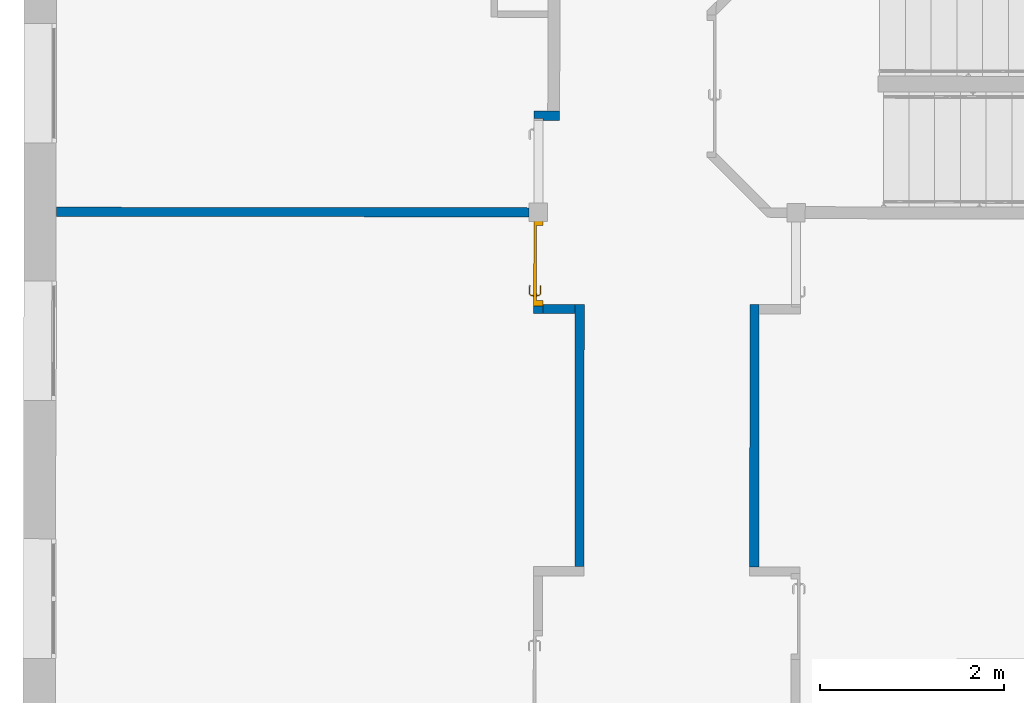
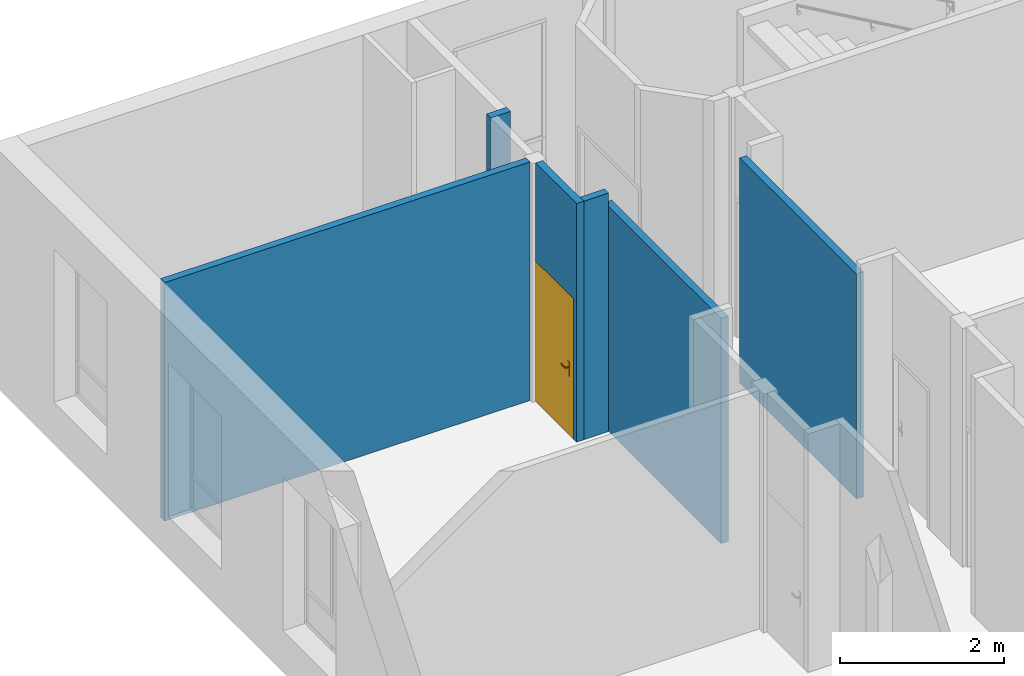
# One storey, part 65 of 101: 6 walls, 1 door, 2 openings.
"""IFC2X3 building model written with IfcOpenShell, lengths in metres."""

import ifcopenshell
import ifcopenshell.guid

model = None  # the IFC model being written
_history = None  # IfcOwnerHistory: only IFC2X3 demands one
_inside = {}  # id of a spatial element -> (the spatial element, [elements in it])
_under = {}  # id of a project, library or spatial element -> (it, [spatial elements below it])
_declared = {}  # id of a project -> (the project, [libraries it declares])
_typed = {}  # id of a type object -> (the type object, [elements of that type])
_made_of = {}  # id of a material, layer set ... -> (it, [elements and type objects made of it])


def new_model(schema):
    """Start an empty IFC model of exactly this schema.

    Asked for "IFC4X3", IfcOpenShell would pick the latest addendum, in which some entities
    have other attributes; the version numbers below select the first issue.
    IFC2X3 requires an IfcOwnerHistory on every rooted entity: one is made here for all.
    """
    global model, _history
    if schema == "IFC4X3":
        model = ifcopenshell.file(schema_version=(4, 3, 0, 0))
    else:
        model = ifcopenshell.file(schema=schema)
    _inside.clear()
    _under.clear()
    _declared.clear()
    _typed.clear()
    _made_of.clear()
    _history = None
    if model.schema == "IFC2X3":
        org = make("IfcOrganization", Name="unknown")
        user = make(
            "IfcPersonAndOrganization",
            ThePerson=make("IfcPerson", FamilyName="unknown"),
            TheOrganization=org,
        )
        app = make(
            "IfcApplication",
            ApplicationDeveloper=org,
            Version="unknown",
            ApplicationFullName="unknown",
            ApplicationIdentifier="unknown",
        )
        _history = make(
            "IfcOwnerHistory",
            OwningUser=user,
            OwningApplication=app,
            ChangeAction="ADDED",
            CreationDate=0,
        )
    return model


def make(cls, **values):
    """One entity of the class cls with the attributes given. An attribute that is None is left unset."""
    return model.create_entity(
        cls, **{name: value for name, value in values.items() if value is not None}
    )


def entity(cls, *values):
    """Any entity or typed value of the class cls, its attributes in the order of the schema. None: left unset."""
    e = model.create_entity(cls)
    for i, value in enumerate(values):
        if value is not None:
            e[i] = value
    return e


def rooted(cls, **values):
    """An entity with a GlobalId (a new one), such as an element, a storey or a relation."""
    return make(cls, GlobalId=ifcopenshell.guid.new(), OwnerHistory=_history, **values)


def si_unit(unit_type, name, prefix=None):
    """IfcSIUnit, for example si_unit("LENGTHUNIT", "METRE", prefix="MILLI")."""
    return make("IfcSIUnit", UnitType=unit_type, Prefix=prefix, Name=name)


def converted_unit(unit_type, name, factor, base, dimensions=None, offset=None):
    """IfcConversionBasedUnit, such as the inch: factor (a typed value) times the base unit."""
    return make(
        "IfcConversionBasedUnit"
        if offset is None
        else "IfcConversionBasedUnitWithOffset",
        ConversionOffset=offset,
        Dimensions=None
        if dimensions is None
        else entity("IfcDimensionalExponents", *dimensions),
        UnitType=unit_type,
        Name=name,
        ConversionFactor=make(
            "IfcMeasureWithUnit", ValueComponent=factor, UnitComponent=base
        ),
    )


def derived_unit(unit_type, elements):
    """IfcDerivedUnit: a product of units, each with its exponent."""
    return make(
        "IfcDerivedUnit",
        Elements=[
            make("IfcDerivedUnitElement", Unit=unit, Exponent=power)
            for unit, power in elements
        ],
        UnitType=unit_type,
    )


def assignment(units):
    """IfcUnitAssignment: the units of a project."""
    return None if units is None else make("IfcUnitAssignment", Units=units)


def point(xyz):
    """IfcCartesianPoint."""
    return None if xyz is None else make("IfcCartesianPoint", Coordinates=xyz)


def direction(xyz):
    """IfcDirection."""
    return None if xyz is None else make("IfcDirection", DirectionRatios=xyz)


def frame(location, z_axis=None, x_axis=None):
    """IfcAxis2Placement3D, a coordinate frame: its origin and axes. An axis left out is left unset."""
    return make(
        "IfcAxis2Placement3D",
        Location=point(location),
        Axis=direction(z_axis),
        RefDirection=direction(x_axis),
    )


def frame_2d(location, x_axis=None):
    """IfcAxis2Placement2D, a coordinate frame in the plane: its origin and x axis."""
    return make(
        "IfcAxis2Placement2D", Location=point(location), RefDirection=direction(x_axis)
    )


def origin():
    """The frame at (0, 0, 0) with its axes left unset."""
    return frame((0.0, 0.0, 0.0))


def place(relative_to, where):
    """IfcLocalPlacement: puts the frame where relative to a parent placement (None: the world)."""
    return make(
        "IfcLocalPlacement", PlacementRelTo=relative_to, RelativePlacement=where
    )


def context(
    kind, dimensions, precision=None, world=None, true_north=None, identifier=None
):
    """IfcGeometricRepresentationContext, for example the 3D "Model" context."""
    return make(
        "IfcGeometricRepresentationContext",
        ContextIdentifier=identifier,
        ContextType=kind,
        CoordinateSpaceDimension=dimensions,
        Precision=precision,
        WorldCoordinateSystem=world,
        TrueNorth=true_north,
    )


def subcontext(parent, identifier, kind, view, scale=None):
    """IfcGeometricRepresentationSubContext, for example "Body" below "Model"."""
    return make(
        "IfcGeometricRepresentationSubContext",
        ContextIdentifier=identifier,
        ContextType=kind,
        ParentContext=parent,
        TargetScale=scale,
        TargetView=view,
    )


def project(units=None, contexts=None):
    """IfcProject with its units and contexts."""
    return rooted(
        "IfcProject",
        Name="project",
        RepresentationContexts=contexts,
        UnitsInContext=assignment(units),
    )


def spatial(cls, under=None, at=None, **own):
    """A site, building, storey or space (cls), placed at a placement, below another one or the project."""
    s = rooted(cls, ObjectPlacement=at, **own)
    if under is not None:
        _under.setdefault(under.id(), (under, []))[1].append(s)
    return s


def polyline(points):
    """IfcPolyline through the points."""
    return make("IfcPolyline", Points=[point(p) for p in points])


def profile(cls, at=None, kind="AREA", **sizes):
    """A parametric profile (cls). Its sizes go by their IFC names, for example OverallWidth=200.0."""
    return make(cls, ProfileType=kind, Position=at, **sizes)


def rectangle(**sizes):
    """IfcRectangleProfileDef."""
    return profile("IfcRectangleProfileDef", **sizes)


def extrude(swept, where, along, depth):
    """IfcExtrudedAreaSolid: the profile swept, set in the frame where, extruded along a direction by depth."""
    return make(
        "IfcExtrudedAreaSolid",
        SweptArea=swept,
        Position=where,
        ExtrudedDirection=direction(along),
        Depth=depth,
    )


def clip(a, b, op="DIFFERENCE"):
    """IfcBooleanClippingResult: the solid a cut by the half space b."""
    return make(
        "IfcBooleanClippingResult", Operator=op, FirstOperand=a, SecondOperand=b
    )


def bounded_halfspace(plane, agree, where, boundary):
    """IfcPolygonalBoundedHalfSpace: a half space limited to a polygon's prism."""
    return make(
        "IfcPolygonalBoundedHalfSpace",
        BaseSurface=make("IfcPlane", Position=plane),
        AgreementFlag=agree,
        Position=where,
        PolygonalBoundary=boundary,
    )


def faces_of(points, faces, orient=None, outer=None):
    """IfcFace entities. A face is a list of loops; a loop is a list of indices into points, from 0.

    orient and outer hold one flag for each loop. By default every Orientation is true, the
    first loop of a face is its IfcFaceOuterBound and the others are IfcFaceBound.
    """
    made = []
    for i, loops in enumerate(faces):
        bounds = []
        for j, loop in enumerate(loops):
            is_outer = j == 0 if outer is None else outer[i][j]
            bounds.append(
                make(
                    "IfcFaceOuterBound" if is_outer else "IfcFaceBound",
                    Bound=make("IfcPolyLoop", Polygon=[points[k] for k in loop]),
                    Orientation=True if orient is None else orient[i][j],
                )
            )
        made.append(make("IfcFace", Bounds=bounds))
    return made


def faceted_brep(points, faces, orient=None, outer=None, voids=None):
    """IfcFacetedBrep: a solid bounded by flat faces; with voids (closed shells), ...WithVoids."""
    shared = [point(p) for p in points]
    hull = make("IfcClosedShell", CfsFaces=faces_of(shared, faces, orient, outer))
    if voids is None:
        return make("IfcFacetedBrep", Outer=hull)
    return make(
        "IfcFacetedBrepWithVoids",
        Outer=hull,
        Voids=[
            make(cls, CfsFaces=faces_of(shared, fs, o, b)) for cls, fs, o, b in voids
        ],
    )


def shape(context_of_items, identifier, shape_type, items):
    """IfcShapeRepresentation: the items that make up one representation, for example the "Body"."""
    return make(
        "IfcShapeRepresentation",
        ContextOfItems=context_of_items,
        RepresentationIdentifier=identifier,
        RepresentationType=shape_type,
        Items=items,
    )


def source(mapping_origin, context_of_items, identifier, shape_type, items):
    """IfcRepresentationMap: a shape defined once, which mapped items show again and again."""
    return make(
        "IfcRepresentationMap",
        MappingOrigin=mapping_origin,
        MappedRepresentation=shape(context_of_items, identifier, shape_type, items),
    )


def transform(
    local_origin,
    x_axis=None,
    y_axis=None,
    z_axis=None,
    scale=None,
    scale2=None,
    scale3=None,
    uniform=True,
):
    """IfcCartesianTransformationOperator3D, or its non-uniform kind. x_axis, y_axis, z_axis: its Axis1, 2, 3."""
    if uniform:
        return make(
            "IfcCartesianTransformationOperator3D",
            Axis1=direction(x_axis),
            Axis2=direction(y_axis),
            LocalOrigin=point(local_origin),
            Scale=scale,
            Axis3=direction(z_axis),
        )
    return make(
        "IfcCartesianTransformationOperator3DnonUniform",
        Axis1=direction(x_axis),
        Axis2=direction(y_axis),
        LocalOrigin=point(local_origin),
        Scale=scale,
        Axis3=direction(z_axis),
        Scale2=scale2,
        Scale3=scale3,
    )


def mapped(mapping_source, mapping_target):
    """IfcMappedItem: shows the shape of a source again, moved by a transform."""
    return make(
        "IfcMappedItem", MappingSource=mapping_source, MappingTarget=mapping_target
    )


def material(Name=None, Category=None):
    """IfcMaterial."""
    return make("IfcMaterial", Name=Name, Category=Category)


def material_list(materials):
    """IfcMaterialList."""
    return make("IfcMaterialList", Materials=materials)


def layer(
    of_material, thickness, ventilated=None, Name=None, Category=None, Priority=None
):
    """IfcMaterialLayer: one layer of a wall or slab, of a material (None: an air gap)."""
    return make(
        "IfcMaterialLayer",
        Material=of_material,
        LayerThickness=thickness,
        IsVentilated=ventilated,
        Name=Name,
        Category=Category,
        Priority=Priority,
    )


def layer_set(layers, Name=None):
    """IfcMaterialLayerSet."""
    return make("IfcMaterialLayerSet", MaterialLayers=layers, LayerSetName=Name)


def layer_usage(for_layer_set, set_direction, sense, offset, extent=None):
    """IfcMaterialLayerSetUsage: how a layer set lies in its element."""
    return make(
        "IfcMaterialLayerSetUsage",
        ForLayerSet=for_layer_set,
        LayerSetDirection=set_direction,
        DirectionSense=sense,
        OffsetFromReferenceLine=offset,
        ReferenceExtent=extent,
    )


def made_of(thing, what):
    """Note that an element or type object is made of a material, layer set ...; save() writes the relation."""
    if what is not None:
        _made_of.setdefault(what.id(), (what, []))[1].append(thing)
    return thing


def type_object(cls, material=None, **own):
    """A type object (cls), such as IfcWallType, which elements share."""
    return made_of(rooted(cls, **own), material)


def type_shapes(of_type, sources):
    """Give a type object the sources (RepresentationMaps) that its elements show as mapped items."""
    of_type.RepresentationMaps = sources


def element(
    cls,
    number,
    at=None,
    inside=None,
    cuts=None,
    type_object=None,
    material=None,
    context=None,
    identifier="Body",
    shape_type=None,
    held_by="IfcProductDefinitionShape",
    body=None,
    shapes=None,
    **own,
):
    """One element of the class cls, such as IfcWall. Its Tag is "e" and its number.

    at: its placement. inside: the storey or other place that contains it. cuts: it is an
    opening in that element (IfcRelVoidsElement). A single representation is given by context,
    identifier, shape_type and body (its items); several are given by shapes. held_by: the class
    of the entity that holds the representations. save() writes the other relations.
    """
    e = rooted(cls, Tag="e%d" % number, ObjectPlacement=at, **own)
    if body is not None:
        shapes = [shape(context, identifier, shape_type, body)]
    if shapes is not None:
        e.Representation = make(held_by, Representations=shapes)
    if inside is not None:
        _inside.setdefault(inside.id(), (inside, []))[1].append(e)
    if cuts is not None:
        rooted(
            "IfcRelVoidsElement", RelatingBuildingElement=cuts, RelatedOpeningElement=e
        )
    if type_object is not None:
        _typed.setdefault(type_object.id(), (type_object, []))[1].append(e)
    return made_of(e, material)


def fill(opening, filler):
    """IfcRelFillsElement: the door or window that sits in an opening."""
    return rooted(
        "IfcRelFillsElement",
        RelatingOpeningElement=opening,
        RelatedBuildingElement=filler,
    )


def aggregate(whole, parts):
    """IfcRelAggregates: a whole, such as a stair, and the parts it consists of."""
    return rooted("IfcRelAggregates", RelatingObject=whole, RelatedObjects=parts)


def save(model, path):
    """Write the relations noted so far, then the file.

    IfcRelAggregates (storeys below a building ...), IfcRelContainedInSpatialStructure (elements
    in a storey), IfcRelDefinesByType, IfcRelAssociatesMaterial and IfcRelDeclares: one each for
    every whole, place, type object, material and project.
    """
    for whole, parts in _under.values():
        aggregate(whole, parts)
    for where, things in _inside.values():
        rooted(
            "IfcRelContainedInSpatialStructure",
            RelatedElements=things,
            RelatingStructure=where,
        )
    for kind, things in _typed.values():
        rooted("IfcRelDefinesByType", RelatedObjects=things, RelatingType=kind)
    for what, things in _made_of.values():
        rooted("IfcRelAssociatesMaterial", RelatedObjects=things, RelatingMaterial=what)
    for by, libraries in _declared.values():
        rooted("IfcRelDeclares", RelatingContext=by, RelatedDefinitions=libraries)
    model.write(path)


model = new_model("IFC2X3")

# Units and contexts
model_context = context("Model", 3, precision=1e-05, world=origin(), true_north=direction((6.123233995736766e-17, 1.0)))
body_context = subcontext(model_context, "Body", "Model", "MODEL_VIEW")
ifc_project = project(units=[si_unit("LENGTHUNIT", "METRE"), si_unit("AREAUNIT", "SQUARE_METRE"), converted_unit("PLANEANGLEUNIT", "DEGREE", entity("IfcPlaneAngleMeasure", 0.017453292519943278), si_unit("PLANEANGLEUNIT", "RADIAN"), dimensions=[0, 0, 0, 0, 0, 0, 0]), derived_unit("THERMALTRANSMITTANCEUNIT", [(si_unit("MASSUNIT", "GRAM", prefix="KILO"), 1), (si_unit("THERMODYNAMICTEMPERATUREUNIT", "KELVIN"), -1), (si_unit("TIMEUNIT", "SECOND"), -3)])], contexts=[model_context])

# Site, building, storey
site_placement = place(None, frame((1253.6752467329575, 2072.143113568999, 91.49999999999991), z_axis=(0.0, 0.0, 1.0), x_axis=(0.7237211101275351, 0.6900925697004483, 0.0)))
site = spatial("IfcSite", under=ifc_project, at=site_placement, Name="Surface", CompositionType="ELEMENT")
building_placement = place(site_placement, origin())
building = spatial("IfcBuilding", under=site, at=building_placement, CompositionType="ELEMENT")
storey_placement = place(building_placement, origin())
storey = spatial("IfcBuildingStorey", under=building, at=storey_placement, Name="0- Rdc", CompositionType="ELEMENT", Elevation=-5.764692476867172e-13)

# Walls
ifc_material_1 = material(Name="OMD_Béton blanc")
ifc_layer = layer(ifc_material_1, 0.1)
ifc_layer_set = layer_set([ifc_layer], Name="Mur de base:MUR 10")
ifc_layer_usage_1 = layer_usage(ifc_layer_set, "AXIS2", "NEGATIVE", 0.05)
wall_type = type_object("IfcWallType", Name="Mur de base:MUR 10", PredefinedType="STANDARD", material=ifc_layer_set)
wall_1_placement = place(storey_placement, frame((167.38926105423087, 20.254106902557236, 0.0), z_axis=(0.0, 0.0, 1.0), x_axis=(-0.6909838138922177, -0.7228702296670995, 0.0)))
element("IfcWallStandardCase", 1, at=wall_1_placement, inside=storey, type_object=wall_type, material=ifc_layer_usage_1, Name="Mur de base:MUR 10", ObjectType="Mur de base:MUR 10", context=body_context, shape_type="Clipping", body=[
    clip(extrude(rectangle(XDim=2.8500000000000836, YDim=0.10000000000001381, at=frame_2d((1.4250000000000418, -3.316791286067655e-15), x_axis=(-1.0, 0.0))), origin(), (0.0, 0.0, 1.0), 3.3499999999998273), bounded_halfspace(frame((0.0, -0.04999999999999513, 3.3499999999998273), z_axis=(0.0, 0.0, -1.0), x_axis=(1.0, 0.0, 0.0)), True, frame((0.0, -0.04999999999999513, 3.3499999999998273)), polyline([(0.0, 0.0), (2.850000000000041, 0.0), (2.8500000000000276, 0.10000000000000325), (0.0, 0.10000000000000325), (0.0, 0.0)]))),
])
ifc_layer_usage_2 = layer_usage(ifc_layer_set, "AXIS2", "NEGATIVE", 0.05)
wall_2_placement = place(storey_placement, frame((166.79341062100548, 16.881057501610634, 0.0), z_axis=(0.0, 0.0, 1.0), x_axis=(0.6909838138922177, 0.7228702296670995, 0.0)))
element("IfcWallStandardCase", 2, at=wall_2_placement, inside=storey, type_object=wall_type, material=ifc_layer_usage_2, Name="Mur de base:MUR 10", ObjectType="Mur de base:MUR 10", context=body_context, shape_type="Clipping", body=[
    clip(extrude(rectangle(XDim=2.850000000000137, YDim=0.10000000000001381, at=frame_2d((1.4250000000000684, -1.6930901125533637e-15), x_axis=(-1.0, 0.0))), origin(), (0.0, 0.0, 1.0), 3.3499999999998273), bounded_halfspace(frame((0.0, -0.049999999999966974, 3.3499999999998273), z_axis=(0.0, 0.0, -1.0), x_axis=(-1.0, 0.0, 0.0)), True, frame((0.0, -0.049999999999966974, 3.3499999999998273)), polyline([(0.0, 0.0), (2.8500000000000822, 0.0), (2.8500000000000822, 0.09999999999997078), (0.0, 0.09999999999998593), (0.0, 0.0)]))),
])
ifc_layer_usage_3 = layer_usage(ifc_layer_set, "AXIS2", "NEGATIVE", 0.05)
wall_3_placement = place(storey_placement, frame((167.31856835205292, 20.25251258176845, 0.0), z_axis=(0.0, 0.0, 1.0), x_axis=(-0.7228702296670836, 0.6909838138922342, 0.0)))
element("IfcWallStandardCase", 3, at=wall_3_placement, inside=storey, type_object=wall_type, material=ifc_layer_usage_3, Name="Mur de base:MUR 10", ObjectType="Mur de base:MUR 10", context=body_context, shape_type="SweptSolid", body=[
    extrude(rectangle(XDim=0.3500000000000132, YDim=0.10000000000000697, at=frame_2d((0.1750000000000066, -4.0592529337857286e-16), x_axis=(-1.0, 0.0))), origin(), (0.0, 0.0, 1.0), 3.5499999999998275),
])

# Wall, opening, door
ifc_layer_usage_4 = layer_usage(ifc_layer_set, "AXIS2", "NEGATIVE", 0.05)
wall_4_placement = place(storey_placement, frame((166.9948710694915, 20.49276259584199, 0.0), z_axis=(0.0, 0.0, 1.0), x_axis=(0.6909838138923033, 0.7228702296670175, 0.0)))
wall_4 = element("IfcWallStandardCase", 4, at=wall_4_placement, inside=storey, type_object=wall_type, material=ifc_layer_usage_4, Name="Mur de base:MUR 10", ObjectType="Mur de base:MUR 10", context=body_context, shape_type="SweptSolid", body=[
    extrude(rectangle(XDim=0.9999999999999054, YDim=0.10000000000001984, at=frame_2d((0.4999999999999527, 2.2239154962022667e-15), x_axis=(-1.0, 0.0))), origin(), (0.0, 0.0, 1.0), 3.5499999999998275),
])
opening_1_placement = place(wall_4_placement, frame((0.08249999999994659, -0.049999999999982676, 0.0)))
opening_1 = element("IfcOpeningElement", 5, at=opening_1_placement, cuts=wall_4, Name="OMD_Porte 1V tunnel:80x204:1", ObjectType="Opening", context=body_context, shape_type="SweptSolid", body=[
    extrude(rectangle(XDim=2.0850000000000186, YDim=0.9349999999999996, at=frame_2d((1.0425000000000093, 0.46750000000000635), x_axis=(1.0, 0.0))), frame((0.0, 0.0, 0.0), z_axis=(0.0, 1.0, 0.0), x_axis=(0.0, 0.0, 1.0)), (0.0, 0.0, 1.0), 0.1),
])
ifc_material_2 = material(Name="Porte - Poignée")
ifc_material_3 = material(Name="OMD_Peinture mur")
ifc_material_4 = material(Name="OMD_Bois")
ifc_material_list = material_list([ifc_material_2, ifc_material_3, ifc_material_4])
door_style = type_object("IfcDoorStyle", Name="OMD_Porte 1V tunnel:80x204", ConstructionType="NOTDEFINED", OperationType="NOTDEFINED", ParameterTakesPrecedence=False, Sizeable=False, material=ifc_material_list)
shared_shape = source(origin(), body_context, "Body", "Brep", [
    faceted_brep([(0.8220252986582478, 0.03500000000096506, 1.0077804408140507), (0.8179747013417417, 0.03500000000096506, 1.007780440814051), (0.8139999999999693, 0.03500000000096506, 1.00699999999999), (0.8139999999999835, 0.03500000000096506, 0.9930000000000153), (0.8179747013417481, 0.03500000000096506, 0.9922195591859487), (0.8220252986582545, 0.03500000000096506, 0.9922195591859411), (0.8260000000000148, 0.03500000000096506, 0.9929999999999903), (0.826000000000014, 0.03500000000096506, 1.006999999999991), (0.8139999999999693, 0.05748520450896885, 1.00699999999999), (0.8139999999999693, 0.05748520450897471, 0.9930000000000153), (0.8179747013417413, 0.059131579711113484, 1.007780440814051), (0.8220252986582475, 0.060809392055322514, 1.0077804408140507), (0.8058389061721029, 0.07699578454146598, 1.0077804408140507), (0.8041610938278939, 0.07294518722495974, 1.007780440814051), (0.7207931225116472, 0.07294518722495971, 1.0077804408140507), (0.7191153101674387, 0.07699578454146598, 1.0077804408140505), (0.7114510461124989, 0.06933152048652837, 1.0077804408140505), (0.714315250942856, 0.0664673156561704, 1.0077804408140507), (0.8260000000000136, 0.062455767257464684, 1.006999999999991), (0.8260000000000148, 0.062455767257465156, 0.9929999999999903), (0.8220252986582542, 0.06080939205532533, 0.9922195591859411), (0.8179747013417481, 0.05913157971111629, 0.9922195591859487), (0.8041610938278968, 0.07294518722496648, 0.9922195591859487), (0.8058389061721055, 0.07699578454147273, 0.9922195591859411), (0.7191153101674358, 0.07699578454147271, 0.9922195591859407), (0.7207931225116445, 0.07294518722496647, 0.9922195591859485), (0.7143152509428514, 0.06646731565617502, 0.9922195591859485), (0.7114510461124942, 0.06933152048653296, 0.9922195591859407), (0.8025147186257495, 0.06897048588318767, 1.00699999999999), (0.8025147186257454, 0.06897048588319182, 0.9930000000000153), (0.8074852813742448, 0.08097048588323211, 1.006999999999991), (0.8074852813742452, 0.08097048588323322, 0.9929999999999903), (0.7624771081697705, 0.06897048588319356, 1.0069999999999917), (0.7224394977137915, 0.06897048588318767, 1.0069999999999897), (0.7224394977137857, 0.0689704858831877, 0.9930000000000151), (0.7624771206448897, 0.06897048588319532, 0.9930000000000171), (0.7624771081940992, 0.07512492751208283, 1.0078781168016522), (0.7573994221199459, 0.08097048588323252, 1.0069999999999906), (0.7174689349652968, 0.08097048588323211, 1.0069999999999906), (0.7675547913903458, 0.08097048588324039, 0.9929999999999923), (0.7174689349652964, 0.08097048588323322, 0.99299999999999), (0.762477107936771, 0.07512492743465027, 0.9921218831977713), (0.7086405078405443, 0.07214205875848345, 1.0069999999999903), (0.7086405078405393, 0.07214205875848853, 0.9929999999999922), (0.7171257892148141, 0.06365677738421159, 0.9930000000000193), (0.71712578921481, 0.06365677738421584, 1.0069999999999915)], [[[0, 1, 2, 3, 4, 5, 6, 7]], [[8, 9, 3, 2]], [[1, 10, 8, 2]], [[1, 0, 11, 12, 13, 10]], [[14, 15, 16, 17]], [[7, 18, 11, 0]], [[18, 7, 6, 19]], [[6, 5, 20, 19]], [[5, 4, 21, 22, 23, 20]], [[24, 25, 26, 27]], [[4, 3, 9, 21]], [[28, 29, 9, 8]], [[8, 10, 13, 28]], [[18, 30, 12, 11]], [[31, 30, 18, 19]], [[19, 20, 23, 31]], [[21, 9, 29, 22]], [[29, 28, 32, 33, 34, 35]], [[36, 32, 13]], [[37, 38, 15]], [[37, 12, 30]], [[36, 12, 37]], [[14, 32, 36]], [[36, 15, 14]], [[28, 13, 32]], [[32, 14, 33]], [[12, 36, 13]], [[15, 36, 37]], [[30, 31, 39, 40, 38, 37]], [[23, 41, 39]], [[24, 39, 41]], [[39, 31, 23]], [[39, 24, 40]], [[22, 35, 41]], [[41, 23, 22]], [[41, 35, 25]], [[35, 22, 29]], [[34, 25, 35]], [[24, 41, 25]], [[17, 16, 42, 43, 27, 26, 44, 45]], [[45, 44, 34, 33]], [[33, 14, 17, 45]], [[15, 38, 42, 16]], [[43, 42, 38, 40]], [[24, 27, 43, 40]], [[34, 44, 26, 25]]]),
    faceted_brep([(0.817974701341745, -0.004999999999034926, 1.007780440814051), (0.8220252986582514, -0.004999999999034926, 1.0077804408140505), (0.8260000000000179, -0.004999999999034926, 1.0069999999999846), (0.8260000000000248, -0.004999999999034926, 0.9929999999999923), (0.8220252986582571, -0.004999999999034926, 0.992219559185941), (0.817974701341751, -0.004999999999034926, 0.9922195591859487), (0.8139999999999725, -0.004999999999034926, 0.9930000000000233), (0.8139999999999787, -0.004999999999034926, 1.006999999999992), (0.8220252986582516, -0.03100457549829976, 1.0077804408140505), (0.8260000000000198, -0.03265095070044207, 1.0069999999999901), (0.8179747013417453, -0.02932676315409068, 1.007780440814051), (0.8042986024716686, -0.04300286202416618, 1.007780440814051), (0.8059764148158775, -0.04705345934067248, 1.0077804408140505), (0.7191424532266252, -0.04705345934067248, 1.0077804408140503), (0.7208202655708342, -0.04300286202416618, 1.0077804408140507), (0.714342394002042, -0.03652499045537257, 1.0077804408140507), (0.7114781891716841, -0.039389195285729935, 1.0077804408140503), (0.813999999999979, -0.02768038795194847, 1.006999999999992), (0.8139999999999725, -0.02768038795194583, 0.9930000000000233), (0.817974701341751, -0.029326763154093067, 0.9922195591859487), (0.8220252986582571, -0.031004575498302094, 0.992219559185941), (0.8059764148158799, -0.0470534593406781, 0.992219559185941), (0.804298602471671, -0.04300286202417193, 0.9922195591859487), (0.7208202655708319, -0.04300286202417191, 0.9922195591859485), (0.7191424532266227, -0.047053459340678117, 0.9922195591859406), (0.71147818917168, -0.03938919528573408, 0.9922195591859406), (0.7143423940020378, -0.036524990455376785, 0.9922195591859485), (0.8260000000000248, -0.032650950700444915, 0.9929999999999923), (0.807622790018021, -0.051028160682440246, 1.0069999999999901), (0.8026522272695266, -0.03902816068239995, 1.006999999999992), (0.8026522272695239, -0.03902816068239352, 0.9930000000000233), (0.8076227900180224, -0.05102816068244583, 0.9929999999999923), (0.762559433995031, -0.0451828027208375, 1.0078781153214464), (0.7676923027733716, -0.05102816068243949, 1.0069999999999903), (0.7174960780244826, -0.05102816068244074, 1.00699999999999), (0.7625594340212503, -0.03902816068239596, 1.0069999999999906), (0.7224666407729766, -0.039028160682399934, 1.0069999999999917), (0.7625594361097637, -0.03902816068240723, 0.9930000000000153), (0.7224666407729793, -0.03902816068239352, 0.9930000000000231), (0.7625594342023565, -0.04518280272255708, 0.9921218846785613), (0.7574265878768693, -0.051028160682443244, 0.9929999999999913), (0.7174960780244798, -0.05102816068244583, 0.9929999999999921), (0.7171529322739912, -0.033714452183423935, 0.9930000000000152), (0.7086676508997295, -0.04219973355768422, 0.9929999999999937), (0.7086676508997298, -0.04219973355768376, 1.0069999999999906), (0.717152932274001, -0.03371445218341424, 1.0069999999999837)], [[[0, 1, 2, 3, 4, 5, 6, 7]], [[2, 1, 8, 9]], [[1, 0, 10, 11, 12, 8]], [[13, 14, 15, 16]], [[0, 7, 17, 10]], [[18, 17, 7, 6]], [[5, 19, 18, 6]], [[5, 4, 20, 21, 22, 19]], [[23, 24, 25, 26]], [[3, 27, 20, 4]], [[9, 27, 3, 2]], [[9, 8, 12, 28]], [[10, 17, 29, 11]], [[30, 29, 17, 18]], [[18, 19, 22, 30]], [[20, 27, 31, 21]], [[28, 31, 27, 9]], [[12, 32, 33]], [[13, 33, 32]], [[33, 28, 12]], [[33, 13, 34]], [[11, 35, 32]], [[32, 12, 11]], [[32, 35, 14]], [[35, 11, 29]], [[36, 14, 35]], [[13, 32, 14]], [[29, 30, 37, 38, 36, 35]], [[39, 37, 22]], [[40, 41, 24]], [[40, 21, 31]], [[39, 21, 40]], [[23, 37, 39]], [[39, 24, 23]], [[30, 22, 37]], [[37, 23, 38]], [[21, 39, 22]], [[24, 39, 40]], [[31, 28, 33, 34, 41, 40]], [[42, 26, 25, 43, 44, 16, 15, 45]], [[13, 16, 44, 34]], [[36, 45, 15, 14]], [[42, 45, 36, 38]], [[38, 23, 26, 42]], [[24, 41, 43, 25]], [[44, 43, 41, 34]]]),
    faceted_brep([(0.8199999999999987, 0.030000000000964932, 0.8646410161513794), (0.8303527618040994, 0.03000000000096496, 0.866003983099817), (0.8399999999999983, 0.030000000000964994, 0.8700000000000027), (0.8399999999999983, 0.030000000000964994, 1.0800000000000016), (0.8303527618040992, 0.03000000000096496, 1.0839960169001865), (0.8199999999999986, 0.030000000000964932, 1.0853589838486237), (0.809647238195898, 0.030000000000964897, 1.0839960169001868), (0.7999999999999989, 0.030000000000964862, 1.0800000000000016), (0.7999999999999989, 0.030000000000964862, 0.8700000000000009), (0.8096472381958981, 0.030000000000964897, 0.8660039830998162), (0.8199999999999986, 0.03500000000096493, 1.0853589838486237), (0.8303527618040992, 0.03500000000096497, 1.0839960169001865), (0.8399999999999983, 0.035000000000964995, 1.0800000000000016), (0.8399999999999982, 0.035000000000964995, 0.8700000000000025), (0.8303527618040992, 0.03500000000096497, 0.866003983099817), (0.8199999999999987, 0.03500000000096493, 0.8646410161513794), (0.8096472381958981, 0.0350000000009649, 0.8660039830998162), (0.7999999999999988, 0.03500000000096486, 0.8700000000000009), (0.7999999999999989, 0.03500000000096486, 1.0800000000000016), (0.809647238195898, 0.0350000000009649, 1.0839960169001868)], [[[0, 1, 2, 3, 4, 5, 6, 7, 8, 9]], [[10, 11, 12, 13, 14, 15, 16, 17, 18, 19]], [[6, 19, 18, 7]], [[5, 10, 19, 6]], [[4, 11, 10, 5]], [[4, 3, 12, 11]], [[12, 3, 2, 13]], [[1, 14, 13, 2]], [[0, 15, 14, 1]], [[9, 16, 15, 0]], [[9, 8, 17, 16]], [[17, 8, 7, 18]]]),
    faceted_brep([(0.819999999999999, -0.004999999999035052, 0.8646410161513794), (0.8303527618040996, -0.0049999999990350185, 0.8660039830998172), (0.8399999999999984, -0.004999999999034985, 0.8700000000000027), (0.8399999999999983, -0.004999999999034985, 1.0800000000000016), (0.8303527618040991, -0.0049999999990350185, 1.0839960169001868), (0.8199999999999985, -0.004999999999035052, 1.0853589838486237), (0.8096472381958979, -0.004999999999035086, 1.0839960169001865), (0.7999999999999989, -0.004999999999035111, 1.0800000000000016), (0.7999999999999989, -0.004999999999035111, 0.8700000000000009), (0.8096472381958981, -0.004999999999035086, 0.8660039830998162), (0.8399999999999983, 0.0, 1.0800000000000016), (0.8399999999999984, 0.0, 0.8700000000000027), (0.8303527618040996, 0.0, 0.8660039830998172), (0.819999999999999, 0.0, 0.8646410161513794), (0.8096472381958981, 0.0, 0.8660039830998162), (0.7999999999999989, 0.0, 0.8700000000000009), (0.7999999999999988, 0.0, 1.0800000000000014), (0.8096472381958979, 0.0, 1.0839960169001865), (0.8199999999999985, 0.0, 1.0853589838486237), (0.8303527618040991, 0.0, 1.0839960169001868)], [[[0, 1, 2, 3, 4, 5, 6, 7, 8, 9]], [[10, 11, 12, 13, 14, 15, 16, 17, 18, 19]], [[1, 12, 11, 2]], [[0, 13, 12, 1]], [[9, 14, 13, 0]], [[9, 8, 15, 14]], [[15, 8, 7, 16]], [[6, 17, 16, 7]], [[5, 18, 17, 6]], [[4, 19, 18, 5]], [[4, 3, 10, 19]], [[10, 3, 2, 11]]]),
    faceted_brep([(0.89, 0.030000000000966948, 0.0), (0.89, 0.0, 0.0), (0.04500000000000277, 0.0, 0.0), (0.04500000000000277, 0.030000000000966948, 0.0), (0.89, 0.030000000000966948, 2.04), (0.89, 0.0, 2.04), (0.04500000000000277, 0.0, 2.04), (0.04500000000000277, 0.030000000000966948, 2.04)], [[[0, 1, 2, 3]], [[4, 5, 1, 0]], [[5, 6, 2, 1]], [[6, 7, 3, 2]], [[7, 4, 0, 3]], [[4, 7, 6, 5]]]),
    faceted_brep([(0.9350000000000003, 0.0, 0.0), (0.89, 0.0, 0.0), (0.8900000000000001, 0.03000000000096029, 0.0), (0.8750000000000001, 0.030000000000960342, 0.0), (0.8750000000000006, 0.10000000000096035, 0.0), (0.9350000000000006, 0.10000000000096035, 0.0), (0.9350000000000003, 0.0, 2.085), (0.0, 0.0, 2.085), (0.0, 0.0, 0.0), (0.04500000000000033, 0.0, 0.0), (0.04500000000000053, 0.0, 2.04), (0.8899999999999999, 0.0, 2.0399999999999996), (0.89, 0.030000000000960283, 2.0399999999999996), (0.0450000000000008, 0.03000000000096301, 2.0399999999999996), (0.0450000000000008, 0.030000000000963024, 0.0), (0.060000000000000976, 0.030000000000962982, 0.0), (0.060000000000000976, 0.03000000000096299, 2.0249999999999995), (0.8750000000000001, 0.03000000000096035, 2.025), (0.8750000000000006, 0.10000000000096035, 2.0250000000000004), (0.060000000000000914, 0.10000000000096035, 2.025), (0.060000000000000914, 0.10000000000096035, 0.0), (0.0, 0.10000000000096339, 0.0), (0.0, 0.10000000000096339, 2.085), (0.9350000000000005, 0.10000000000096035, 2.085)], [[[0, 1, 2, 3, 4, 5]], [[1, 0, 6, 7, 8, 9, 10, 11]], [[2, 1, 11, 12]], [[3, 2, 12, 13, 14, 15, 16, 17]], [[4, 3, 17, 18]], [[5, 4, 18, 19, 20, 21, 22, 23]], [[0, 5, 23, 6]], [[7, 22, 21, 8]], [[8, 21, 20, 15, 14, 9]], [[13, 10, 9, 14]], [[19, 16, 15, 20]], [[12, 11, 10, 13]], [[18, 17, 16, 19]], [[6, 23, 22, 7]]]),
])
type_shapes(door_style, [shared_shape])
door_placement = place(opening_1_placement, frame((0.9349999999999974, 0.10000000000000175, 0.0), z_axis=(0.0, 0.0, 1.0), x_axis=(-1.0, 0.0, 0.0)))
door = element("IfcDoor", 6, at=door_placement, inside=storey, type_object=door_style, material=ifc_material_list, Name="OMD_Porte 1V tunnel:80x204", ObjectType="OMD_Porte 1V tunnel:80x204", OverallHeight=2.0850000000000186, OverallWidth=0.935000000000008, context=body_context, shape_type="MappedRepresentation", body=[
    mapped(shared_shape, transform((0.0, 0.0, 0.0), scale=1.0)),
])
fill(opening_1, door)

# Wall
ifc_layer_usage_5 = layer_usage(ifc_layer_set, "AXIS2", "NEGATIVE", 0.05)
wall_5_placement = place(storey_placement, frame((167.68266624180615, 21.35701822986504, 0.0), z_axis=(0.0, 0.0, 1.0), x_axis=(-0.7228702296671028, 0.6909838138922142, 0.0)))
element("IfcWallStandardCase", 7, at=wall_5_placement, inside=storey, type_object=wall_type, material=ifc_layer_usage_5, Name="Mur de base:MUR 10", ObjectType="Mur de base:MUR 10", context=body_context, shape_type="SweptSolid", body=[
    extrude(rectangle(XDim=5.140000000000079, YDim=0.100000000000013, at=frame_2d((2.5700000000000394, -2.7720881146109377e-15), x_axis=(-1.0, 0.0))), origin(), (0.0, 0.0, 1.0), 3.5499999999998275),
])

# Wall, opening
ifc_layer_usage_6 = layer_usage(ifc_layer_set, "AXIS2", "NEGATIVE", 0.05)
wall_6_placement = place(storey_placement, frame((168.64674642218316, 21.88800731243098, 0.0), z_axis=(0.0, 0.0, 1.0), x_axis=(-0.7228702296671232, 0.690983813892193, 0.0)))
wall_6 = element("IfcWallStandardCase", 8, at=wall_6_placement, inside=storey, type_object=wall_type, material=ifc_layer_usage_6, Name="Mur de base:MUR 10", ObjectType="Mur de base:MUR 10", context=body_context, shape_type="SweptSolid", body=[
    extrude(rectangle(XDim=0.2800000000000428, YDim=0.10000000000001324, at=frame_2d((0.1400000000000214, -1.1102230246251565e-16), x_axis=(-1.0, 0.0))), origin(), (0.0, 0.0, 1.0), 3.5499999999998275),
])
opening_2_placement = place(wall_6_placement, frame((106.78545354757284, 132.35436091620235, 0.0)))
element("IfcOpeningElement", 9, at=opening_2_placement, cuts=wall_6, Name="Mur de base:MUR 10", ObjectType="Opening", context=body_context, shape_type="SweptSolid", body=[
    extrude(rectangle(XDim=2.0850000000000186, YDim=0.1000000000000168, at=frame_2d((-1.4918621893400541e-15, -1.1102230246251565e-16), x_axis=(0.0, 1.0))), frame((-106.55545354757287, -132.3218609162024, 1.0425000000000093), z_axis=(0.0, 1.0, 0.0), x_axis=(1.0, 0.0, 0.0)), (0.0, 0.0, 1.0), 0.9350000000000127),
])

save(model, "model.ifc")
